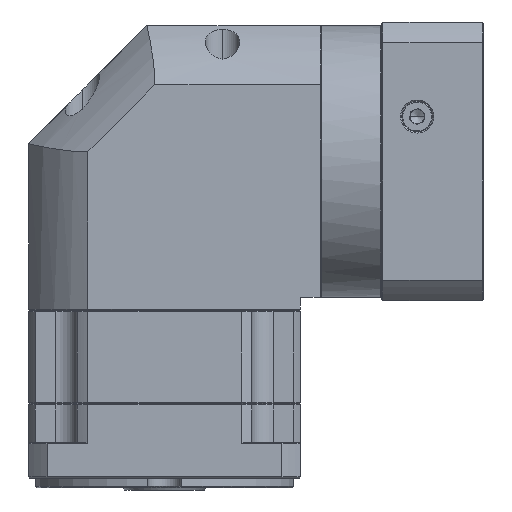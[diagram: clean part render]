
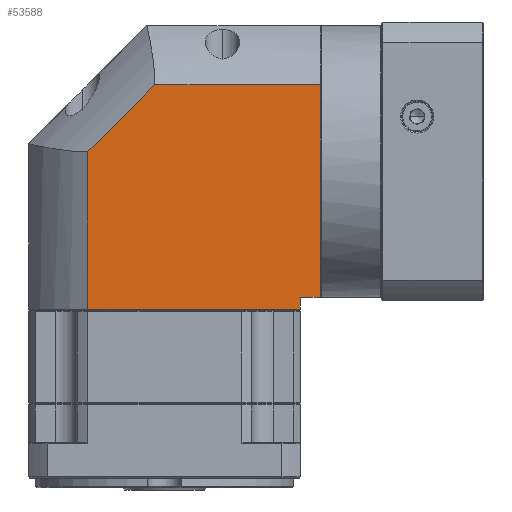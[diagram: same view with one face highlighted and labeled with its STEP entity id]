
A CAD part, front view. The second image highlights one B-rep face of the part: STEP entity #53588.
In plain terms, the highlighted planar face has unit normal (0, -1, 0).
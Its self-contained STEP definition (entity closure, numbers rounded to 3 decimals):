
#171 = DIRECTION ( 'NONE',  ( 0.707, 0., 0.707 ) ) ;
#3640 = ORIENTED_EDGE ( 'NONE', *, *, #21833, .F. ) ;
#8651 = DIRECTION ( 'NONE',  ( 0., 0., 1. ) ) ;
#8673 = DIRECTION ( 'NONE',  ( 0., 0., -1. ) ) ;
#10349 = VERTEX_POINT ( 'NONE', #22970 ) ;
#13376 = VECTOR ( 'NONE', #171, 1000. ) ;
#18545 = EDGE_CURVE ( 'NONE', #33279, #10349, #101265, .T. ) ;
#21833 = EDGE_CURVE ( 'NONE', #30169, #58502, #110909, .T. ) ;
#22970 = CARTESIAN_POINT ( 'NONE',  ( 109.405, 0.612, -50.692 ) ) ;
#26421 = FACE_OUTER_BOUND ( 'NONE', #90388, .T. ) ;
#26485 = VERTEX_POINT ( 'NONE', #60704 ) ;
#26751 = EDGE_CURVE ( 'NONE', #26485, #33279, #123191, .T. ) ;
#28021 = CARTESIAN_POINT ( 'NONE',  ( -13.995, 0.612, -50.692 ) ) ;
#28294 = PLANE ( 'NONE',  #62935 ) ;
#29463 = VECTOR ( 'NONE', #113215, 1000. ) ;
#30169 = VERTEX_POINT ( 'NONE', #119328 ) ;
#30433 = CARTESIAN_POINT ( 'NONE',  ( 11.105, 0.612, 10.87 ) ) ;
#30488 = CARTESIAN_POINT ( 'NONE',  ( -13.995, 0.612, -62.192 ) ) ;
#33279 = VERTEX_POINT ( 'NONE', #85256 ) ;
#40261 = DIRECTION ( 'NONE',  ( 0., 1., 0. ) ) ;
#42048 = VERTEX_POINT ( 'NONE', #30433 ) ;
#42461 = ORIENTED_EDGE ( 'NONE', *, *, #26751, .F. ) ;
#47889 = ORIENTED_EDGE ( 'NONE', *, *, #61541, .F. ) ;
#53588 = ADVANCED_FACE ( 'NONE', ( #26421 ), #28294, .F. ) ;
#57055 = CARTESIAN_POINT ( 'NONE',  ( -13.995, 0.612, 39.208 ) ) ;
#58502 = VERTEX_POINT ( 'NONE', #107519 ) ;
#59777 = LINE ( 'NONE', #120120, #121952 ) ;
#60704 = CARTESIAN_POINT ( 'NONE',  ( 39.443, 0.612, 39.208 ) ) ;
#61541 = EDGE_CURVE ( 'NONE', #58502, #42048, #59777, .T. ) ;
#62604 = DIRECTION ( 'NONE',  ( 0., 0., -1. ) ) ;
#62674 = CARTESIAN_POINT ( 'NONE',  ( 101.005, 0.612, -50.692 ) ) ;
#62935 = AXIS2_PLACEMENT_3D ( 'NONE', #30488, #40261, #90320 ) ;
#69388 = EDGE_CURVE ( 'NONE', #10349, #126177, #105845, .T. ) ;
#69521 = DIRECTION ( 'NONE',  ( -1., 0., 0. ) ) ;
#69742 = CARTESIAN_POINT ( 'NONE',  ( 101.005, 0.612, -62.192 ) ) ;
#70907 = VECTOR ( 'NONE', #8673, 1000. ) ;
#73723 = CARTESIAN_POINT ( 'NONE',  ( 109.405, 0.612, -62.192 ) ) ;
#73967 = VECTOR ( 'NONE', #69521, 1000. ) ;
#80126 = ORIENTED_EDGE ( 'NONE', *, *, #18545, .F. ) ;
#85256 = CARTESIAN_POINT ( 'NONE',  ( 109.405, 0.612, 39.208 ) ) ;
#86897 = LINE ( 'NONE', #69742, #70907 ) ;
#90320 = DIRECTION ( 'NONE',  ( 1., 0., 0. ) ) ;
#90388 = EDGE_LOOP ( 'NONE', ( #91237, #114613, #80126, #42461, #105299, #47889, #3640 ) ) ;
#91237 = ORIENTED_EDGE ( 'NONE', *, *, #93181, .F. ) ;
#91332 = CARTESIAN_POINT ( 'NONE',  ( -13.995, 0.612, -55.692 ) ) ;
#93181 = EDGE_CURVE ( 'NONE', #126177, #30169, #86897, .T. ) ;
#101265 = LINE ( 'NONE', #73723, #128328 ) ;
#101817 = CARTESIAN_POINT ( 'NONE',  ( 11.105, 0.612, 10.87 ) ) ;
#105299 = ORIENTED_EDGE ( 'NONE', *, *, #106244, .F. ) ;
#105702 = VECTOR ( 'NONE', #108338, 1000. ) ;
#105845 = LINE ( 'NONE', #28021, #73967 ) ;
#106244 = EDGE_CURVE ( 'NONE', #42048, #26485, #123401, .T. ) ;
#107519 = CARTESIAN_POINT ( 'NONE',  ( 11.105, 0.612, -55.692 ) ) ;
#108338 = DIRECTION ( 'NONE',  ( 1., 0., 0. ) ) ;
#110909 = LINE ( 'NONE', #91332, #29463 ) ;
#113215 = DIRECTION ( 'NONE',  ( -1., 0., 0. ) ) ;
#114613 = ORIENTED_EDGE ( 'NONE', *, *, #69388, .F. ) ;
#119328 = CARTESIAN_POINT ( 'NONE',  ( 101.005, 0.612, -55.692 ) ) ;
#120120 = CARTESIAN_POINT ( 'NONE',  ( 11.105, 0.612, -62.192 ) ) ;
#121952 = VECTOR ( 'NONE', #8651, 1000. ) ;
#123191 = LINE ( 'NONE', #57055, #105702 ) ;
#123401 = LINE ( 'NONE', #101817, #13376 ) ;
#126177 = VERTEX_POINT ( 'NONE', #62674 ) ;
#128328 = VECTOR ( 'NONE', #62604, 1000. ) ;
